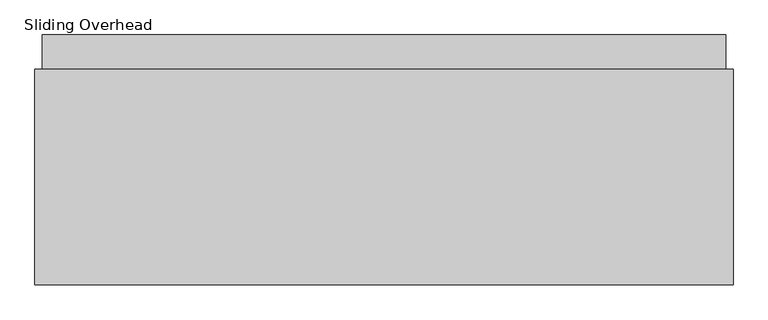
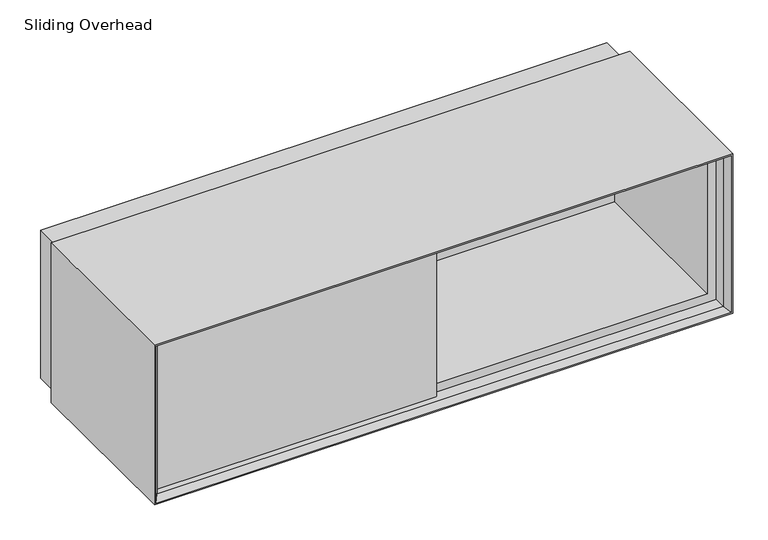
"""IFC4 building model written with IfcOpenShell, lengths in millimetres: furniture geometry."""

import ifcopenshell
import ifcopenshell.guid

model = None  # the IFC model being written
_history = None  # IfcOwnerHistory: only IFC2X3 demands one
_inside = {}  # id of a spatial element -> (the spatial element, [elements in it])
_under = {}  # id of a project, library or spatial element -> (it, [spatial elements below it])
_declared = {}  # id of a project -> (the project, [libraries it declares])
_typed = {}  # id of a type object -> (the type object, [elements of that type])
_made_of = {}  # id of a material, layer set ... -> (it, [elements and type objects made of it])


def new_model(schema):
    """Start an empty IFC model of exactly this schema.

    Asked for "IFC4X3", IfcOpenShell would pick the latest addendum, in which some entities
    have other attributes; the version numbers below select the first issue.
    IFC2X3 requires an IfcOwnerHistory on every rooted entity: one is made here for all.
    """
    global model, _history
    if schema == "IFC4X3":
        model = ifcopenshell.file(schema_version=(4, 3, 0, 0))
    else:
        model = ifcopenshell.file(schema=schema)
    _inside.clear()
    _under.clear()
    _declared.clear()
    _typed.clear()
    _made_of.clear()
    _history = None
    if model.schema == "IFC2X3":
        org = make("IfcOrganization", Name="unknown")
        user = make(
            "IfcPersonAndOrganization",
            ThePerson=make("IfcPerson", FamilyName="unknown"),
            TheOrganization=org,
        )
        app = make(
            "IfcApplication",
            ApplicationDeveloper=org,
            Version="unknown",
            ApplicationFullName="unknown",
            ApplicationIdentifier="unknown",
        )
        _history = make(
            "IfcOwnerHistory",
            OwningUser=user,
            OwningApplication=app,
            ChangeAction="ADDED",
            CreationDate=0,
        )
    return model


def make(cls, **values):
    """One entity of the class cls with the attributes given. An attribute that is None is left unset."""
    return model.create_entity(
        cls, **{name: value for name, value in values.items() if value is not None}
    )


def rooted(cls, **values):
    """An entity with a GlobalId (a new one), such as an element, a storey or a relation."""
    return make(cls, GlobalId=ifcopenshell.guid.new(), OwnerHistory=_history, **values)


def si_unit(unit_type, name, prefix=None):
    """IfcSIUnit, for example si_unit("LENGTHUNIT", "METRE", prefix="MILLI")."""
    return make("IfcSIUnit", UnitType=unit_type, Prefix=prefix, Name=name)


def assignment(units):
    """IfcUnitAssignment: the units of a project."""
    return None if units is None else make("IfcUnitAssignment", Units=units)


def point(xyz):
    """IfcCartesianPoint."""
    return None if xyz is None else make("IfcCartesianPoint", Coordinates=xyz)


def direction(xyz):
    """IfcDirection."""
    return None if xyz is None else make("IfcDirection", DirectionRatios=xyz)


def frame(location, z_axis=None, x_axis=None):
    """IfcAxis2Placement3D, a coordinate frame: its origin and axes. An axis left out is left unset."""
    return make(
        "IfcAxis2Placement3D",
        Location=point(location),
        Axis=direction(z_axis),
        RefDirection=direction(x_axis),
    )


def origin():
    """The frame at (0, 0, 0) with its axes left unset."""
    return frame((0.0, 0.0, 0.0))


def place(relative_to, where):
    """IfcLocalPlacement: puts the frame where relative to a parent placement (None: the world)."""
    return make(
        "IfcLocalPlacement", PlacementRelTo=relative_to, RelativePlacement=where
    )


def context(
    kind, dimensions, precision=None, world=None, true_north=None, identifier=None
):
    """IfcGeometricRepresentationContext, for example the 3D "Model" context."""
    return make(
        "IfcGeometricRepresentationContext",
        ContextIdentifier=identifier,
        ContextType=kind,
        CoordinateSpaceDimension=dimensions,
        Precision=precision,
        WorldCoordinateSystem=world,
        TrueNorth=true_north,
    )


def project(units=None, contexts=None):
    """IfcProject with its units and contexts."""
    return rooted(
        "IfcProject",
        Name="project",
        RepresentationContexts=contexts,
        UnitsInContext=assignment(units),
    )


def spatial(cls, under=None, at=None, **own):
    """A site, building, storey or space (cls), placed at a placement, below another one or the project."""
    s = rooted(cls, ObjectPlacement=at, **own)
    if under is not None:
        _under.setdefault(under.id(), (under, []))[1].append(s)
    return s


def polyline(points):
    """IfcPolyline through the points."""
    return make("IfcPolyline", Points=[point(p) for p in points])


def outline(outer, holes=None, kind="AREA"):
    """IfcArbitraryClosedProfileDef: a profile drawn as a closed curve; with holes, ...WithVoids."""
    if holes is None:
        return make("IfcArbitraryClosedProfileDef", ProfileType=kind, OuterCurve=outer)
    return make(
        "IfcArbitraryProfileDefWithVoids",
        ProfileType=kind,
        OuterCurve=outer,
        InnerCurves=holes,
    )


def extrude(swept, where, along, depth):
    """IfcExtrudedAreaSolid: the profile swept, set in the frame where, extruded along a direction by depth."""
    return make(
        "IfcExtrudedAreaSolid",
        SweptArea=swept,
        Position=where,
        ExtrudedDirection=direction(along),
        Depth=depth,
    )


def faces_of(points, faces, orient=None, outer=None):
    """IfcFace entities. A face is a list of loops; a loop is a list of indices into points, from 0.

    orient and outer hold one flag for each loop. By default every Orientation is true, the
    first loop of a face is its IfcFaceOuterBound and the others are IfcFaceBound.
    """
    made = []
    for i, loops in enumerate(faces):
        bounds = []
        for j, loop in enumerate(loops):
            is_outer = j == 0 if outer is None else outer[i][j]
            bounds.append(
                make(
                    "IfcFaceOuterBound" if is_outer else "IfcFaceBound",
                    Bound=make("IfcPolyLoop", Polygon=[points[k] for k in loop]),
                    Orientation=True if orient is None else orient[i][j],
                )
            )
        made.append(make("IfcFace", Bounds=bounds))
    return made


def faceted_brep(points, faces, orient=None, outer=None, voids=None):
    """IfcFacetedBrep: a solid bounded by flat faces; with voids (closed shells), ...WithVoids."""
    shared = [point(p) for p in points]
    hull = make("IfcClosedShell", CfsFaces=faces_of(shared, faces, orient, outer))
    if voids is None:
        return make("IfcFacetedBrep", Outer=hull)
    return make(
        "IfcFacetedBrepWithVoids",
        Outer=hull,
        Voids=[
            make(cls, CfsFaces=faces_of(shared, fs, o, b)) for cls, fs, o, b in voids
        ],
    )


def shape(context_of_items, identifier, shape_type, items):
    """IfcShapeRepresentation: the items that make up one representation, for example the "Body"."""
    return make(
        "IfcShapeRepresentation",
        ContextOfItems=context_of_items,
        RepresentationIdentifier=identifier,
        RepresentationType=shape_type,
        Items=items,
    )


def source(mapping_origin, context_of_items, identifier, shape_type, items):
    """IfcRepresentationMap: a shape defined once, which mapped items show again and again."""
    return make(
        "IfcRepresentationMap",
        MappingOrigin=mapping_origin,
        MappedRepresentation=shape(context_of_items, identifier, shape_type, items),
    )


def transform(
    local_origin,
    x_axis=None,
    y_axis=None,
    z_axis=None,
    scale=None,
    scale2=None,
    scale3=None,
    uniform=True,
):
    """IfcCartesianTransformationOperator3D, or its non-uniform kind. x_axis, y_axis, z_axis: its Axis1, 2, 3."""
    if uniform:
        return make(
            "IfcCartesianTransformationOperator3D",
            Axis1=direction(x_axis),
            Axis2=direction(y_axis),
            LocalOrigin=point(local_origin),
            Scale=scale,
            Axis3=direction(z_axis),
        )
    return make(
        "IfcCartesianTransformationOperator3DnonUniform",
        Axis1=direction(x_axis),
        Axis2=direction(y_axis),
        LocalOrigin=point(local_origin),
        Scale=scale,
        Axis3=direction(z_axis),
        Scale2=scale2,
        Scale3=scale3,
    )


def mapped(mapping_source, mapping_target):
    """IfcMappedItem: shows the shape of a source again, moved by a transform."""
    return make(
        "IfcMappedItem", MappingSource=mapping_source, MappingTarget=mapping_target
    )


def made_of(thing, what):
    """Note that an element or type object is made of a material, layer set ...; save() writes the relation."""
    if what is not None:
        _made_of.setdefault(what.id(), (what, []))[1].append(thing)
    return thing


def element(
    cls,
    number,
    at=None,
    inside=None,
    cuts=None,
    type_object=None,
    material=None,
    context=None,
    identifier="Body",
    shape_type=None,
    held_by="IfcProductDefinitionShape",
    body=None,
    shapes=None,
    **own,
):
    """One element of the class cls, such as IfcWall. Its Tag is "e" and its number.

    at: its placement. inside: the storey or other place that contains it. cuts: it is an
    opening in that element (IfcRelVoidsElement). A single representation is given by context,
    identifier, shape_type and body (its items); several are given by shapes. held_by: the class
    of the entity that holds the representations. save() writes the other relations.
    """
    e = rooted(cls, Tag="e%d" % number, ObjectPlacement=at, **own)
    if body is not None:
        shapes = [shape(context, identifier, shape_type, body)]
    if shapes is not None:
        e.Representation = make(held_by, Representations=shapes)
    if inside is not None:
        _inside.setdefault(inside.id(), (inside, []))[1].append(e)
    if cuts is not None:
        rooted(
            "IfcRelVoidsElement", RelatingBuildingElement=cuts, RelatedOpeningElement=e
        )
    if type_object is not None:
        _typed.setdefault(type_object.id(), (type_object, []))[1].append(e)
    return made_of(e, material)


def aggregate(whole, parts):
    """IfcRelAggregates: a whole, such as a stair, and the parts it consists of."""
    return rooted("IfcRelAggregates", RelatingObject=whole, RelatedObjects=parts)


def save(model, path):
    """Write the relations noted so far, then the file.

    IfcRelAggregates (storeys below a building ...), IfcRelContainedInSpatialStructure (elements
    in a storey), IfcRelDefinesByType, IfcRelAssociatesMaterial and IfcRelDeclares: one each for
    every whole, place, type object, material and project.
    """
    for whole, parts in _under.values():
        aggregate(whole, parts)
    for where, things in _inside.values():
        rooted(
            "IfcRelContainedInSpatialStructure",
            RelatedElements=things,
            RelatingStructure=where,
        )
    for kind, things in _typed.values():
        rooted("IfcRelDefinesByType", RelatedObjects=things, RelatingType=kind)
    for what, things in _made_of.values():
        rooted("IfcRelAssociatesMaterial", RelatedObjects=things, RelatingMaterial=what)
    for by, libraries in _declared.values():
        rooted("IfcRelDeclares", RelatingContext=by, RelatedDefinitions=libraries)
    model.write(path)


def sliding_overhead_68c2a225(model_context):
    return source(origin(), model_context, "Body", "SolidModel", [
        extrude(outline(polyline([(609.6, 38.1), (31.75, 38.1), (31.75, 50.8), (609.6, 50.8), (609.6, 38.1)])), frame((0.0, 0.0, 1555.75), z_axis=(0.0, 0.0, 1.0), x_axis=(1.0, 0.0, 0.0)), (0.0, 0.0, 1.0), 292.1),
        extrude(outline(polyline([(609.6, 25.4), (12.7, 25.4), (12.7, 38.1), (609.6, 38.1), (609.6, 25.4)])), frame((0.0, 0.0, 1536.7), z_axis=(0.0, 0.0, 1.0), x_axis=(1.0, 0.0, 0.0)), (0.0, 0.0, 1.0), 330.2),
        extrude(outline(polyline([(615.95, 376.2375), (615.95, 50.8), (603.25, 50.8), (603.25, 376.2375), (615.95, 376.2375)])), frame((0.0, 0.0, 1555.75), z_axis=(0.0, 0.0, 1.0), x_axis=(1.0, 0.0, 0.0)), (0.0, 0.0, 1.0), 292.1),
        extrude(outline(polyline([(1206.5, 376.2375), (12.7, 376.2375), (12.7, 436.5625), (1206.5, 436.5625), (1206.5, 376.2375)])), frame((0.0, 0.0, 1536.7), z_axis=(0.0, 0.0, 1.0), x_axis=(1.0, 0.0, 0.0)), (0.0, 0.0, 1.0), 330.2),
        extrude(outline(polyline([(1866.9, 1206.5), (1866.9, 12.7), (1536.7, 12.7), (1536.7, 1206.5), (1866.9, 1206.5)]), holes=[polyline([(1847.85, 31.75), (1847.85, 1187.45), (1555.75, 1187.45), (1555.75, 31.75), (1847.85, 31.75)])]), frame((0.0, 38.1, 0.0), z_axis=(0.0, 1.0, 0.0), x_axis=(0.0, 0.0, 1.0)), (0.0, 0.0, 1.0), 338.1375),
        faceted_brep([(1206.5, 12.7, 1866.9), (1206.5, 376.2375, 1866.9), (1206.5, 376.2375, 1536.7), (1206.5, 12.7, 1536.7), (1216.025, 0.0, 1876.425), (1216.025, 0.0, 1527.175), (1219.2, 376.2375, 1879.6), (1219.2, 0.0, 1879.6), (1219.2, 0.0, 1524.0), (1219.2, 376.2375, 1524.0), (12.7, 376.2375, 1536.7), (12.7, 12.7, 1536.7), (3.175, 0.0, 1527.175), (0.0, 0.0, 1524.0), (0.0, 376.2375, 1524.0), (12.7, 376.2375, 1866.9), (12.7, 12.7, 1866.9), (3.175, 0.0, 1876.425), (0.0, 0.0, 1879.6), (0.0, 376.2375, 1879.6)], [[[0, 1, 2, 3]], [[4, 0, 3, 5]], [[6, 7, 8, 9]], [[3, 2, 10, 11]], [[5, 3, 11, 12]], [[9, 8, 13, 14]], [[11, 10, 15, 16]], [[12, 11, 16, 17]], [[14, 13, 18, 19]], [[9, 14, 19, 6], [1, 15, 10, 2]], [[16, 15, 1, 0]], [[17, 16, 0, 4]], [[7, 18, 13, 8], [5, 12, 17, 4]], [[19, 18, 7, 6]]]),
    ])


if __name__ == "__main__":
    model = new_model("IFC4")
    model_context = context("Model", 3, world=origin())
    ifc_project = project(units=[si_unit("LENGTHUNIT", "METRE", prefix="MILLI")], contexts=[model_context])
    site = spatial("IfcSite", under=ifc_project)
    building = spatial("IfcBuilding", under=site)
    placement = place(None, origin())
    sliding_overhead_shape = sliding_overhead_68c2a225(model_context)
    element("IfcFurniture", 1, ObjectType="Sliding Overhead : 2 3/8\" Backpanel - 48\" W", at=placement, inside=building, context=model_context, shape_type="MappedRepresentation", body=[
        mapped(sliding_overhead_shape, transform((0.0, 0.0, 0.0), x_axis=(1.0, 0.0, 0.0), y_axis=(0.0, 1.0, 0.0), z_axis=(0.0, 0.0, 1.0))),
    ])
    save(model, "model.ifc")
